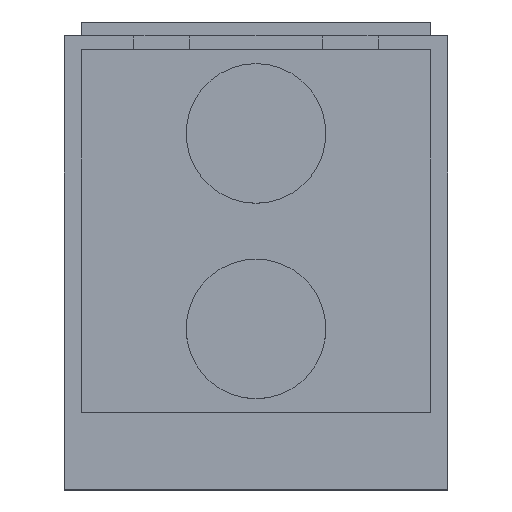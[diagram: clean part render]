
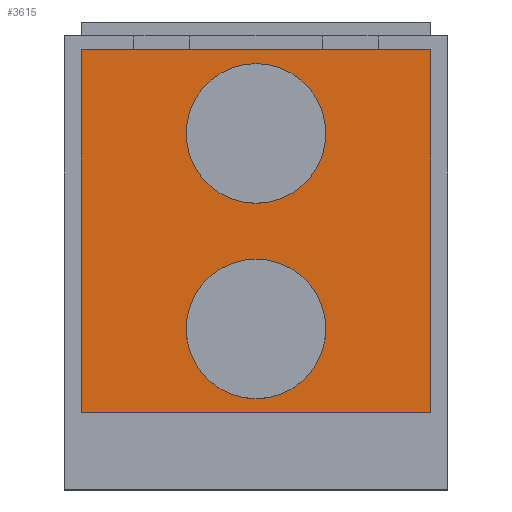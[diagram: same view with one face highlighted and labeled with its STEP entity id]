
A CAD part, top view. The second image highlights one B-rep face of the part: STEP entity #3615.
In plain terms, the highlighted planar face has unit normal (0, 0, 1).
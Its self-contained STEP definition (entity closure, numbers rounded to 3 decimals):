
#334=DIRECTION('',(0.,-1.,0.));
#335=VECTOR('',#334,52.);
#336=CARTESIAN_POINT('',(52.5,63.,46.));
#337=LINE('',#336,#335);
#338=DIRECTION('',(-1.,0.,0.));
#339=VECTOR('',#338,50.);
#340=CARTESIAN_POINT('',(52.5,11.,46.));
#341=LINE('',#340,#339);
#342=DIRECTION('',(0.,1.,0.));
#343=VECTOR('',#342,52.);
#344=CARTESIAN_POINT('',(2.5,11.,46.));
#345=LINE('',#344,#343);
#346=DIRECTION('',(1.,0.,0.));
#347=VECTOR('',#346,50.);
#348=CARTESIAN_POINT('',(2.5,63.,46.));
#349=LINE('',#348,#347);
#350=CARTESIAN_POINT('',(27.5,51.,46.));
#351=DIRECTION('',(0.,0.,1.));
#352=DIRECTION('',(0.,-1.,0.));
#353=AXIS2_PLACEMENT_3D('',#350,#351,#352);
#355=CARTESIAN_POINT('',(27.5,51.,46.));
#356=DIRECTION('',(0.,0.,1.));
#357=DIRECTION('',(0.,1.,0.));
#358=AXIS2_PLACEMENT_3D('',#355,#356,#357);
#360=CARTESIAN_POINT('',(27.5,23.,46.));
#361=DIRECTION('',(0.,0.,1.));
#362=DIRECTION('',(0.,-1.,0.));
#363=AXIS2_PLACEMENT_3D('',#360,#361,#362);
#365=CARTESIAN_POINT('',(27.5,23.,46.));
#366=DIRECTION('',(0.,0.,1.));
#367=DIRECTION('',(0.,1.,0.));
#368=AXIS2_PLACEMENT_3D('',#365,#366,#367);
#2602=CARTESIAN_POINT('',(52.5,11.,46.));
#2603=VERTEX_POINT('',#2602);
#2604=CARTESIAN_POINT('',(52.5,63.,46.));
#2605=VERTEX_POINT('',#2604);
#2606=CARTESIAN_POINT('',(2.5,11.,46.));
#2607=VERTEX_POINT('',#2606);
#2608=CARTESIAN_POINT('',(2.5,63.,46.));
#2609=VERTEX_POINT('',#2608);
#2622=CARTESIAN_POINT('',(27.5,41.,46.));
#2623=CARTESIAN_POINT('',(27.5,61.,46.));
#2624=VERTEX_POINT('',#2622);
#2625=VERTEX_POINT('',#2623);
#2626=CARTESIAN_POINT('',(27.5,13.,46.));
#2627=CARTESIAN_POINT('',(27.5,33.,46.));
#2628=VERTEX_POINT('',#2626);
#2629=VERTEX_POINT('',#2627);
#3592=CARTESIAN_POINT('',(27.5,37.,46.));
#3593=DIRECTION('',(0.,0.,-1.));
#3594=DIRECTION('',(-1.,0.,0.));
#3595=AXIS2_PLACEMENT_3D('',#3592,#3593,#3594);
#3596=PLANE('',#3595);
#3597=ORIENTED_EDGE('',*,*,#3439,.T.);
#3598=ORIENTED_EDGE('',*,*,#3454,.T.);
#3599=ORIENTED_EDGE('',*,*,#3468,.T.);
#3600=ORIENTED_EDGE('',*,*,#3489,.T.);
#3601=EDGE_LOOP('',(#3597,#3598,#3599,#3600));
#3602=FACE_OUTER_BOUND('',#3601,.F.);
#3604=ORIENTED_EDGE('',*,*,#3603,.T.);
#3606=ORIENTED_EDGE('',*,*,#3605,.T.);
#3607=EDGE_LOOP('',(#3604,#3606));
#3608=FACE_BOUND('',#3607,.F.);
#3610=ORIENTED_EDGE('',*,*,#3609,.T.);
#3612=ORIENTED_EDGE('',*,*,#3611,.T.);
#3613=EDGE_LOOP('',(#3610,#3612));
#3614=FACE_BOUND('',#3613,.F.);
#354=CIRCLE('',#353,10.);
#359=CIRCLE('',#358,10.);
#364=CIRCLE('',#363,10.);
#369=CIRCLE('',#368,10.);
#3439=EDGE_CURVE('',#2605,#2603,#337,.T.);
#3454=EDGE_CURVE('',#2603,#2607,#341,.T.);
#3468=EDGE_CURVE('',#2607,#2609,#345,.T.);
#3489=EDGE_CURVE('',#2609,#2605,#349,.T.);
#3603=EDGE_CURVE('',#2624,#2625,#354,.T.);
#3605=EDGE_CURVE('',#2625,#2624,#359,.T.);
#3609=EDGE_CURVE('',#2628,#2629,#364,.T.);
#3611=EDGE_CURVE('',#2629,#2628,#369,.T.);
#3615=ADVANCED_FACE('',(#3602,#3608,#3614),#3596,.F.);
